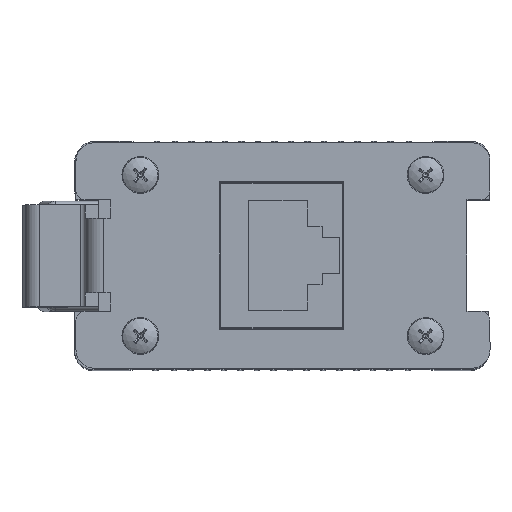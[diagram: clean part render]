
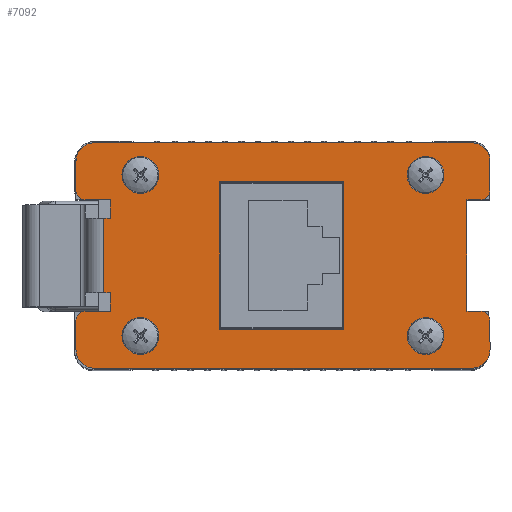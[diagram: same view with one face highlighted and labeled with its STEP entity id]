
A CAD part, top view. The second image highlights one B-rep face of the part: STEP entity #7092.
In plain terms, the highlighted planar face has unit normal (0, 0, 1) as drawn and (0, 0, -1) by its records, which use the part's own axes.
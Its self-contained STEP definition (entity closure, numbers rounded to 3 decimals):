
#135=FACE_BOUND('',#920,.T.);
#136=FACE_BOUND('',#921,.T.);
#137=FACE_BOUND('',#922,.T.);
#138=FACE_BOUND('',#923,.T.);
#139=FACE_BOUND('',#924,.T.);
#527=FACE_OUTER_BOUND('',#919,.T.);
#919=EDGE_LOOP('',(#5955,#5956,#5957,#5958,#5959,#5960,#5961,#5962,#5963,
#5964,#5965,#5966,#5967,#5968,#5969,#5970,#5971,#5972,#5973,#5974,#5975,
#5976,#5977,#5978));
#920=EDGE_LOOP('',(#5979,#5980,#5981,#5982));
#921=EDGE_LOOP('',(#5983));
#922=EDGE_LOOP('',(#5984));
#923=EDGE_LOOP('',(#5985));
#924=EDGE_LOOP('',(#5986));
#1614=LINE('',#11504,#2377);
#1617=LINE('',#11510,#2380);
#1620=LINE('',#11516,#2383);
#1623=LINE('',#11520,#2386);
#1629=LINE('',#11537,#2392);
#1633=LINE('',#11549,#2396);
#1642=LINE('',#11569,#2405);
#1643=LINE('',#11571,#2406);
#1644=LINE('',#11575,#2407);
#1645=LINE('',#11579,#2408);
#1646=LINE('',#11583,#2409);
#1647=LINE('',#11587,#2410);
#1648=LINE('',#11589,#2411);
#1649=LINE('',#11591,#2412);
#1650=LINE('',#11595,#2413);
#1651=LINE('',#11599,#2414);
#1652=LINE('',#11603,#2415);
#1653=LINE('',#11607,#2416);
#1654=LINE('',#11608,#2417);
#1655=LINE('',#11609,#2418);
#2377=VECTOR('',#9375,10.);
#2380=VECTOR('',#9380,10.);
#2383=VECTOR('',#9385,10.);
#2386=VECTOR('',#9390,10.);
#2392=VECTOR('',#9402,10.);
#2396=VECTOR('',#9412,10.);
#2405=VECTOR('',#9427,10.);
#2406=VECTOR('',#9428,10.);
#2407=VECTOR('',#9431,10.);
#2408=VECTOR('',#9434,10.);
#2409=VECTOR('',#9437,10.);
#2410=VECTOR('',#9440,10.);
#2411=VECTOR('',#9441,10.);
#2412=VECTOR('',#9442,10.);
#2413=VECTOR('',#9445,10.);
#2414=VECTOR('',#9448,10.);
#2415=VECTOR('',#9451,10.);
#2416=VECTOR('',#9454,10.);
#2417=VECTOR('',#9455,10.);
#2418=VECTOR('',#9456,10.);
#2739=CIRCLE('',#7799,1.);
#2740=CIRCLE('',#7800,2.);
#2741=CIRCLE('',#7801,2.);
#2742=CIRCLE('',#7802,1.);
#2743=CIRCLE('',#7803,1.);
#2744=CIRCLE('',#7804,2.);
#2745=CIRCLE('',#7805,2.);
#2746=CIRCLE('',#7806,1.);
#2747=CIRCLE('',#7807,1.6);
#2748=CIRCLE('',#7808,1.6);
#2749=CIRCLE('',#7809,1.6);
#2750=CIRCLE('',#7810,1.6);
#3292=VERTEX_POINT('',#11501);
#3293=VERTEX_POINT('',#11503);
#3295=VERTEX_POINT('',#11509);
#3297=VERTEX_POINT('',#11515);
#3299=VERTEX_POINT('',#11523);
#3305=VERTEX_POINT('',#11535);
#3308=VERTEX_POINT('',#11545);
#3310=VERTEX_POINT('',#11548);
#3318=VERTEX_POINT('',#11568);
#3319=VERTEX_POINT('',#11570);
#3320=VERTEX_POINT('',#11572);
#3321=VERTEX_POINT('',#11574);
#3322=VERTEX_POINT('',#11576);
#3323=VERTEX_POINT('',#11578);
#3324=VERTEX_POINT('',#11580);
#3325=VERTEX_POINT('',#11582);
#3326=VERTEX_POINT('',#11584);
#3327=VERTEX_POINT('',#11586);
#3328=VERTEX_POINT('',#11588);
#3329=VERTEX_POINT('',#11590);
#3330=VERTEX_POINT('',#11592);
#3331=VERTEX_POINT('',#11594);
#3332=VERTEX_POINT('',#11596);
#3333=VERTEX_POINT('',#11598);
#3334=VERTEX_POINT('',#11600);
#3335=VERTEX_POINT('',#11602);
#3336=VERTEX_POINT('',#11604);
#3337=VERTEX_POINT('',#11606);
#3338=VERTEX_POINT('',#11610);
#3339=VERTEX_POINT('',#11612);
#3340=VERTEX_POINT('',#11614);
#3341=VERTEX_POINT('',#11616);
#4194=EDGE_CURVE('',#3293,#3292,#1614,.T.);
#4197=EDGE_CURVE('',#3295,#3293,#1617,.T.);
#4200=EDGE_CURVE('',#3297,#3295,#1620,.T.);
#4203=EDGE_CURVE('',#3292,#3297,#1623,.T.);
#4211=EDGE_CURVE('',#3299,#3305,#1629,.T.);
#4216=EDGE_CURVE('',#3310,#3308,#1633,.T.);
#4226=EDGE_CURVE('',#3305,#3318,#1642,.T.);
#4227=EDGE_CURVE('',#3318,#3319,#1643,.T.);
#4228=EDGE_CURVE('',#3320,#3319,#2739,.T.);
#4229=EDGE_CURVE('',#3321,#3320,#1644,.T.);
#4230=EDGE_CURVE('',#3322,#3321,#2740,.T.);
#4231=EDGE_CURVE('',#3323,#3322,#1645,.T.);
#4232=EDGE_CURVE('',#3324,#3323,#2741,.T.);
#4233=EDGE_CURVE('',#3325,#3324,#1646,.T.);
#4234=EDGE_CURVE('',#3326,#3325,#2742,.T.);
#4235=EDGE_CURVE('',#3326,#3327,#1647,.T.);
#4236=EDGE_CURVE('',#3327,#3328,#1648,.T.);
#4237=EDGE_CURVE('',#3328,#3329,#1649,.T.);
#4238=EDGE_CURVE('',#3330,#3329,#2743,.T.);
#4239=EDGE_CURVE('',#3331,#3330,#1650,.T.);
#4240=EDGE_CURVE('',#3332,#3331,#2744,.T.);
#4241=EDGE_CURVE('',#3333,#3332,#1651,.T.);
#4242=EDGE_CURVE('',#3334,#3333,#2745,.T.);
#4243=EDGE_CURVE('',#3335,#3334,#1652,.T.);
#4244=EDGE_CURVE('',#3336,#3335,#2746,.T.);
#4245=EDGE_CURVE('',#3336,#3337,#1653,.T.);
#4246=EDGE_CURVE('',#3337,#3310,#1654,.T.);
#4247=EDGE_CURVE('',#3308,#3299,#1655,.T.);
#4248=EDGE_CURVE('',#3338,#3338,#2747,.T.);
#4249=EDGE_CURVE('',#3339,#3339,#2748,.T.);
#4250=EDGE_CURVE('',#3340,#3340,#2749,.T.);
#4251=EDGE_CURVE('',#3341,#3341,#2750,.T.);
#5955=ORIENTED_EDGE('',*,*,#4211,.T.);
#5956=ORIENTED_EDGE('',*,*,#4226,.T.);
#5957=ORIENTED_EDGE('',*,*,#4227,.T.);
#5958=ORIENTED_EDGE('',*,*,#4228,.F.);
#5959=ORIENTED_EDGE('',*,*,#4229,.F.);
#5960=ORIENTED_EDGE('',*,*,#4230,.F.);
#5961=ORIENTED_EDGE('',*,*,#4231,.F.);
#5962=ORIENTED_EDGE('',*,*,#4232,.F.);
#5963=ORIENTED_EDGE('',*,*,#4233,.F.);
#5964=ORIENTED_EDGE('',*,*,#4234,.F.);
#5965=ORIENTED_EDGE('',*,*,#4235,.T.);
#5966=ORIENTED_EDGE('',*,*,#4236,.T.);
#5967=ORIENTED_EDGE('',*,*,#4237,.T.);
#5968=ORIENTED_EDGE('',*,*,#4238,.F.);
#5969=ORIENTED_EDGE('',*,*,#4239,.F.);
#5970=ORIENTED_EDGE('',*,*,#4240,.F.);
#5971=ORIENTED_EDGE('',*,*,#4241,.F.);
#5972=ORIENTED_EDGE('',*,*,#4242,.F.);
#5973=ORIENTED_EDGE('',*,*,#4243,.F.);
#5974=ORIENTED_EDGE('',*,*,#4244,.F.);
#5975=ORIENTED_EDGE('',*,*,#4245,.T.);
#5976=ORIENTED_EDGE('',*,*,#4246,.T.);
#5977=ORIENTED_EDGE('',*,*,#4216,.T.);
#5978=ORIENTED_EDGE('',*,*,#4247,.T.);
#5979=ORIENTED_EDGE('',*,*,#4194,.T.);
#5980=ORIENTED_EDGE('',*,*,#4203,.T.);
#5981=ORIENTED_EDGE('',*,*,#4200,.T.);
#5982=ORIENTED_EDGE('',*,*,#4197,.T.);
#5983=ORIENTED_EDGE('',*,*,#4248,.T.);
#5984=ORIENTED_EDGE('',*,*,#4249,.T.);
#5985=ORIENTED_EDGE('',*,*,#4250,.T.);
#5986=ORIENTED_EDGE('',*,*,#4251,.T.);
#6776=PLANE('',#7798);
#7092=ADVANCED_FACE('',(#527,#135,#136,#137,#138,#139),#6776,.F.);
#7798=AXIS2_PLACEMENT_3D('',#11567,#9425,#9426);
#7799=AXIS2_PLACEMENT_3D('',#11573,#9429,#9430);
#7800=AXIS2_PLACEMENT_3D('',#11577,#9432,#9433);
#7801=AXIS2_PLACEMENT_3D('',#11581,#9435,#9436);
#7802=AXIS2_PLACEMENT_3D('',#11585,#9438,#9439);
#7803=AXIS2_PLACEMENT_3D('',#11593,#9443,#9444);
#7804=AXIS2_PLACEMENT_3D('',#11597,#9446,#9447);
#7805=AXIS2_PLACEMENT_3D('',#11601,#9449,#9450);
#7806=AXIS2_PLACEMENT_3D('',#11605,#9452,#9453);
#7807=AXIS2_PLACEMENT_3D('',#11611,#9457,#9458);
#7808=AXIS2_PLACEMENT_3D('',#11613,#9459,#9460);
#7809=AXIS2_PLACEMENT_3D('',#11615,#9461,#9462);
#7810=AXIS2_PLACEMENT_3D('',#11617,#9463,#9464);
#9375=DIRECTION('',(0.,1.,0.));
#9380=DIRECTION('',(1.,0.,0.));
#9385=DIRECTION('',(0.,-1.,0.));
#9390=DIRECTION('',(-1.,0.,0.));
#9402=DIRECTION('',(1.,0.,0.));
#9412=DIRECTION('',(-1.,0.,0.));
#9425=DIRECTION('center_axis',(0.,0.,1.));
#9426=DIRECTION('ref_axis',(1.,0.,0.));
#9427=DIRECTION('',(0.,1.,0.));
#9428=DIRECTION('',(-1.,0.,0.));
#9429=DIRECTION('center_axis',(0.,0.,1.));
#9430=DIRECTION('ref_axis',(-0.707,-0.707,0.));
#9431=DIRECTION('',(0.,-1.,0.));
#9432=DIRECTION('center_axis',(0.,0.,1.));
#9433=DIRECTION('ref_axis',(-0.707,0.707,0.));
#9434=DIRECTION('',(-1.,0.,0.));
#9435=DIRECTION('center_axis',(0.,0.,1.));
#9436=DIRECTION('ref_axis',(0.707,0.707,0.));
#9437=DIRECTION('',(0.,1.,0.));
#9438=DIRECTION('center_axis',(0.,0.,1.));
#9439=DIRECTION('ref_axis',(0.707,-0.707,0.));
#9440=DIRECTION('',(-1.,0.,0.));
#9441=DIRECTION('',(0.,-1.,0.));
#9442=DIRECTION('',(1.,0.,0.));
#9443=DIRECTION('center_axis',(0.,0.,1.));
#9444=DIRECTION('ref_axis',(0.707,0.707,0.));
#9445=DIRECTION('',(0.,1.,0.));
#9446=DIRECTION('center_axis',(0.,0.,1.));
#9447=DIRECTION('ref_axis',(0.707,-0.707,0.));
#9448=DIRECTION('',(1.,0.,0.));
#9449=DIRECTION('center_axis',(0.,0.,1.));
#9450=DIRECTION('ref_axis',(-0.707,-0.707,0.));
#9451=DIRECTION('',(0.,-1.,0.));
#9452=DIRECTION('center_axis',(0.,0.,1.));
#9453=DIRECTION('ref_axis',(-0.707,0.707,0.));
#9454=DIRECTION('',(1.,0.,0.));
#9455=DIRECTION('',(0.,1.,0.));
#9456=DIRECTION('',(0.,1.,0.));
#9457=DIRECTION('center_axis',(0.,0.,1.));
#9458=DIRECTION('ref_axis',(-1.,0.,0.));
#9459=DIRECTION('center_axis',(0.,0.,1.));
#9460=DIRECTION('ref_axis',(-1.,0.,0.));
#9461=DIRECTION('center_axis',(0.,0.,1.));
#9462=DIRECTION('ref_axis',(-1.,0.,0.));
#9463=DIRECTION('center_axis',(0.,0.,1.));
#9464=DIRECTION('ref_axis',(-1.,0.,0.));
#11501=CARTESIAN_POINT('',(29.1,20.25,0.));
#11503=CARTESIAN_POINT('',(29.1,4.25,0.));
#11504=CARTESIAN_POINT('',(29.1,8.25,0.));
#11509=CARTESIAN_POINT('',(15.6,4.25,0.));
#11510=CARTESIAN_POINT('',(19.05,4.25,0.));
#11515=CARTESIAN_POINT('',(15.6,20.25,0.));
#11516=CARTESIAN_POINT('',(15.6,16.25,0.));
#11520=CARTESIAN_POINT('',(25.8,20.25,0.));
#11523=CARTESIAN_POINT('',(3.,16.3,0.));
#11535=CARTESIAN_POINT('',(3.75,16.3,0.));
#11537=CARTESIAN_POINT('',(11.75,16.3,0.));
#11545=CARTESIAN_POINT('',(3.,8.2,0.));
#11548=CARTESIAN_POINT('',(3.75,8.2,0.));
#11549=CARTESIAN_POINT('',(11.75,8.2,0.));
#11567=CARTESIAN_POINT('Origin',(22.5,12.25,0.));
#11568=CARTESIAN_POINT('',(3.75,18.3,0.));
#11569=CARTESIAN_POINT('',(3.75,12.25,0.));
#11570=CARTESIAN_POINT('',(1.,18.3,0.));
#11571=CARTESIAN_POINT('',(13.125,18.3,0.));
#11572=CARTESIAN_POINT('',(0.,19.3,0.));
#11573=CARTESIAN_POINT('Origin',(1.,19.3,0.));
#11574=CARTESIAN_POINT('',(0.,22.5,0.));
#11575=CARTESIAN_POINT('',(0.,24.5,0.));
#11576=CARTESIAN_POINT('',(2.,24.5,0.));
#11577=CARTESIAN_POINT('Origin',(2.,22.5,0.));
#11578=CARTESIAN_POINT('',(43.,24.5,0.));
#11579=CARTESIAN_POINT('',(45.,24.5,0.));
#11580=CARTESIAN_POINT('',(45.,22.5,0.));
#11581=CARTESIAN_POINT('Origin',(43.,22.5,0.));
#11582=CARTESIAN_POINT('',(45.,19.3,0.));
#11583=CARTESIAN_POINT('',(45.,0.,0.));
#11584=CARTESIAN_POINT('',(44.,18.3,0.));
#11585=CARTESIAN_POINT('Origin',(44.,19.3,0.));
#11586=CARTESIAN_POINT('',(42.5,18.3,0.));
#11587=CARTESIAN_POINT('',(33.75,18.3,0.));
#11588=CARTESIAN_POINT('',(42.5,6.2,0.));
#11589=CARTESIAN_POINT('',(42.5,15.275,0.));
#11590=CARTESIAN_POINT('',(44.,6.2,0.));
#11591=CARTESIAN_POINT('',(32.5,6.2,0.));
#11592=CARTESIAN_POINT('',(45.,5.2,0.));
#11593=CARTESIAN_POINT('Origin',(44.,5.2,0.));
#11594=CARTESIAN_POINT('',(45.,2.,0.));
#11595=CARTESIAN_POINT('',(45.,0.,0.));
#11596=CARTESIAN_POINT('',(43.,0.,0.));
#11597=CARTESIAN_POINT('Origin',(43.,2.,0.));
#11598=CARTESIAN_POINT('',(2.,0.,0.));
#11599=CARTESIAN_POINT('',(0.,0.,0.));
#11600=CARTESIAN_POINT('',(0.,2.,0.));
#11601=CARTESIAN_POINT('Origin',(2.,2.,0.));
#11602=CARTESIAN_POINT('',(0.,5.2,0.));
#11603=CARTESIAN_POINT('',(0.,24.5,0.));
#11604=CARTESIAN_POINT('',(1.,6.2,0.));
#11605=CARTESIAN_POINT('Origin',(1.,5.2,0.));
#11606=CARTESIAN_POINT('',(3.75,6.2,0.));
#11607=CARTESIAN_POINT('',(11.25,6.2,0.));
#11608=CARTESIAN_POINT('',(3.75,12.25,0.));
#11609=CARTESIAN_POINT('',(3.,9.475,0.));
#11610=CARTESIAN_POINT('',(8.6,21.,0.));
#11611=CARTESIAN_POINT('Origin',(7.,21.,0.));
#11612=CARTESIAN_POINT('',(39.6,21.,0.));
#11613=CARTESIAN_POINT('Origin',(38.,21.,0.));
#11614=CARTESIAN_POINT('',(8.6,3.5,0.));
#11615=CARTESIAN_POINT('Origin',(7.,3.5,0.));
#11616=CARTESIAN_POINT('',(39.6,3.5,0.));
#11617=CARTESIAN_POINT('Origin',(38.,3.5,0.));
